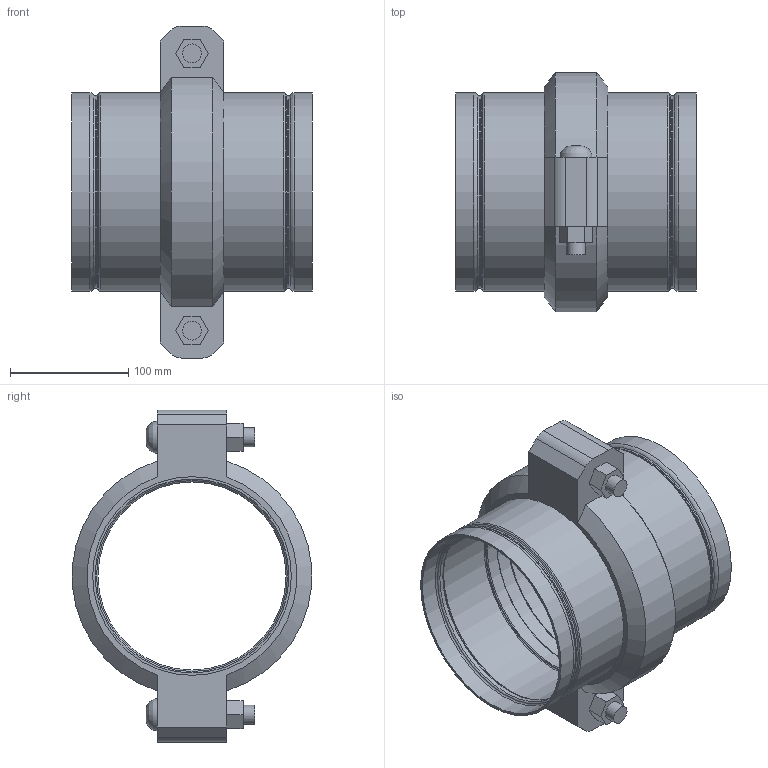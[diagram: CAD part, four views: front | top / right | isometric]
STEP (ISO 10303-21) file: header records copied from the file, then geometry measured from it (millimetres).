
FILE_DESCRIPTION(/* description */ ('VIC STRENGTHIN 100 EXPANSION JOINT 1 COUPLING COMPRESSED STYLE E155 (ST1)','CAx-IF Rec.Pracs.---Representation and Presentation of Product Manufacturing Information (PMI)---4.0---2014-10-13'),/* implementation_level */ '2;1');
FILE_NAME(/* name */ 'C:\Users\Vjadhav\AppData\Roaming\Autodesk\ApplicationPlugins\Victaulic.Temp\A42\Victaulic_SS-StrengThin 100_Expansion Joint_Compressed_1 Coupling_Style E155 (ST1)_6 (150).stp',/* time_stamp */ '2021-07-23T12:24:24+06:00',/* author */ ('kkamble'),/* organization */ ('Victaulic'),/* preprocessor_version */ 'ST-DEVELOPER v17.2',/* originating_system */ 'Autodesk Inventor 2019',/* authorisation */ '');
FILE_SCHEMA (('AP242_MANAGED_MODEL_BASED_3D_ENGINEERING_MIM_LF { 1 0 10303 442 1 1 4 }'));
Length unit declared in the file: inch
Products named in the file (3): E155-06.0; E494G-06.0; 075-06.0
Assembly tree (3 placements, depth 2):
  E155-06.0
    E494G-06.0  x2
    075-06.0
Bounding box: 203.96 x 202.46 x 281.18 mm (x, y, z)
Volume: 975935.5 mm3; surface area: 336021.3 mm2
Topology: 3 solids, 5 shells, 121 faces, 349 edges, 252 vertices
Faces by surface type: plane 46, cylinder 33, torus 32, cone 8, bspline 2
Full cylindrical faces by diameter (mm): 15.875 x4, 17.424 x2, 159.258 x2, 159.944 x2, 163.271 x2, 163.957 x2, 164.262 x6, 168.275 x7
Entity records: 3147 total; most frequent: CARTESIAN_POINT 568, DIRECTION 551, ORIENTED_EDGE 476, EDGE_CURVE 238, AXIS2_PLACEMENT_3D 230, VERTEX_POINT 169, CIRCLE 139, EDGE_LOOP 105
